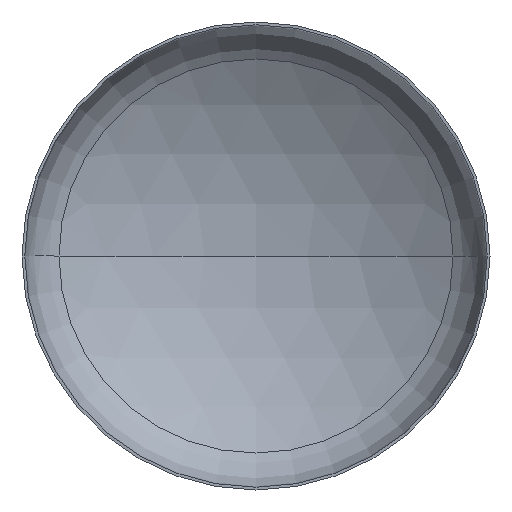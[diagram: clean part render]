
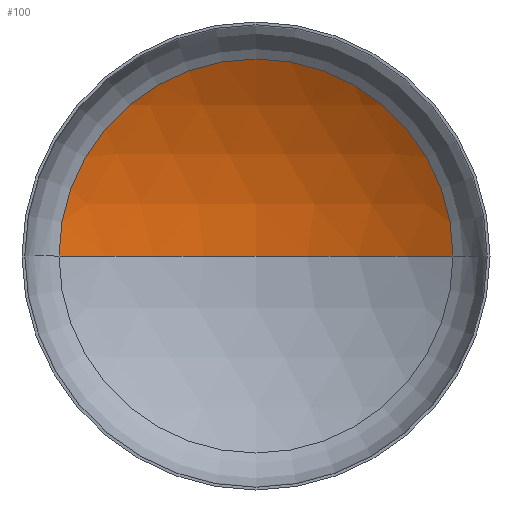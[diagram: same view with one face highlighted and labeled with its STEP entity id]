
A CAD part, front view. The second image highlights one B-rep face of the part: STEP entity #100.
In plain terms, the highlighted spherical face has radius 4800 mm.
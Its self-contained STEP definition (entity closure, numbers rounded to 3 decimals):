
#12 = DIRECTION ( 'NONE',  ( 1., 0., 0. ) ) ;
#32 = VERTEX_POINT ( 'NONE', #305 ) ;
#53 = VERTEX_POINT ( 'NONE', #260 ) ;
#73 = ORIENTED_EDGE ( 'NONE', *, *, #197, .T. ) ;
#80 = ORIENTED_EDGE ( 'NONE', *, *, #199, .T. ) ;
#81 = EDGE_LOOP ( 'NONE', ( #115, #80, #73 ) ) ;
#93 = VERTEX_POINT ( 'NONE', #256 ) ;
#100 = ADVANCED_FACE ( 'NONE', ( #348 ), #148, .F. ) ;
#115 = ORIENTED_EDGE ( 'NONE', *, *, #203, .F. ) ;
#131 = AXIS2_PLACEMENT_3D ( 'NONE', #330, #262, #12 ) ;
#139 = AXIS2_PLACEMENT_3D ( 'NONE', #196, #198, #205 ) ;
#142 = AXIS2_PLACEMENT_3D ( 'NONE', #230, #218, #216 ) ;
#148 = SPHERICAL_SURFACE ( 'NONE', #168, 4800. ) ;
#168 = AXIS2_PLACEMENT_3D ( 'NONE', #258, #234, #246 ) ;
#196 = CARTESIAN_POINT ( 'NONE',  ( 0., -3185.164, 0. ) ) ;
#197 = EDGE_CURVE ( 'NONE', #32, #93, #278, .T. ) ;
#198 = DIRECTION ( 'NONE',  ( 0., 0., -1. ) ) ;
#199 = EDGE_CURVE ( 'NONE', #53, #32, #202, .T. ) ;
#202 = CIRCLE ( 'NONE', #139, 4800. ) ;
#203 = EDGE_CURVE ( 'NONE', #53, #93, #388, .T. ) ;
#205 = DIRECTION ( 'NONE',  ( -1., 0., 0. ) ) ;
#216 = DIRECTION ( 'NONE',  ( 1., 0., 0. ) ) ;
#218 = DIRECTION ( 'NONE',  ( 0., -1., 0. ) ) ;
#230 = CARTESIAN_POINT ( 'NONE',  ( 0., 896.587, 0. ) ) ;
#234 = DIRECTION ( 'NONE',  ( 0., 0., -1. ) ) ;
#246 = DIRECTION ( 'NONE',  ( -1., 0., 0. ) ) ;
#256 = CARTESIAN_POINT ( 'NONE',  ( -2525.729, 896.587, 0. ) ) ;
#258 = CARTESIAN_POINT ( 'NONE',  ( 0., -3185.164, 0. ) ) ;
#260 = CARTESIAN_POINT ( 'NONE',  ( 0., 1614.836, 0. ) ) ;
#262 = DIRECTION ( 'NONE',  ( 0., 0., 1. ) ) ;
#278 = CIRCLE ( 'NONE', #142, 2525.729 ) ;
#305 = CARTESIAN_POINT ( 'NONE',  ( 2525.729, 896.587, 0. ) ) ;
#330 = CARTESIAN_POINT ( 'NONE',  ( 0., -3185.164, 0. ) ) ;
#348 = FACE_OUTER_BOUND ( 'NONE', #81, .T. ) ;
#388 = CIRCLE ( 'NONE', #131, 4800. ) ;
